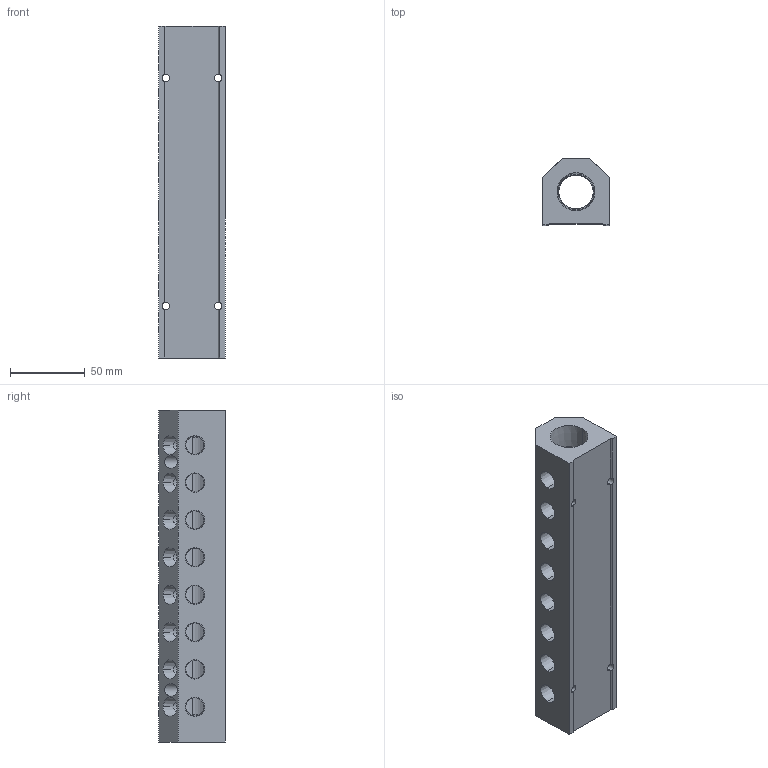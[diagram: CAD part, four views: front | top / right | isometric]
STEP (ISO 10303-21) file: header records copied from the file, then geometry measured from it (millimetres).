
FILE_DESCRIPTION (( 'STEP AP214' ), '1' );
FILE_NAME ('ALM8ABC-N4N12-222R.step', '2022-02-06T14:06:15', ( '' ), ( '' ), 'SwSTEP 2.0', 'SolidWorks 2020', '' );
FILE_SCHEMA (( 'AUTOMOTIVE_DESIGN' ));
Length unit declared in the file: millimetre
Products named in the file (1): ALM8ABC-N4N12-222R
Bounding box: 44.5 x 44.5 x 222 mm (x, y, z)
Volume: 262865.2 mm3; surface area: 61981.7 mm2
Topology: 1 solids, 1 shells, 372 faces, 1070 edges, 710 vertices
Faces by surface type: plane 219, bspline 68, cone 59, cylinder 26
Entity records: 21676 total; most frequent: CARTESIAN_POINT 9073, ORIENTED_EDGE 2140, DIRECTION 1492, EDGE_CURVE 1070, VERTEX_POINT 710, LINE 682, VECTOR 682, EDGE_LOOP 440
